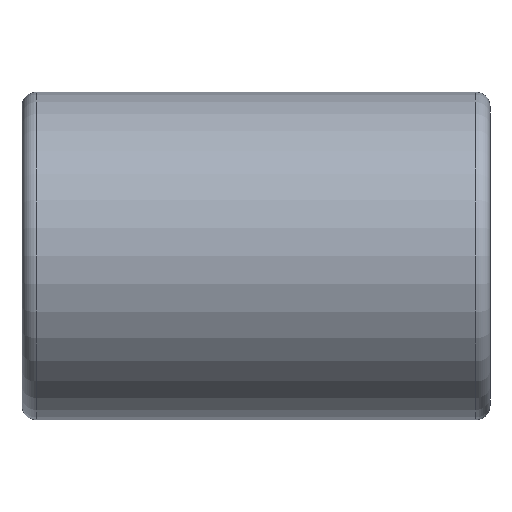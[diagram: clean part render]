
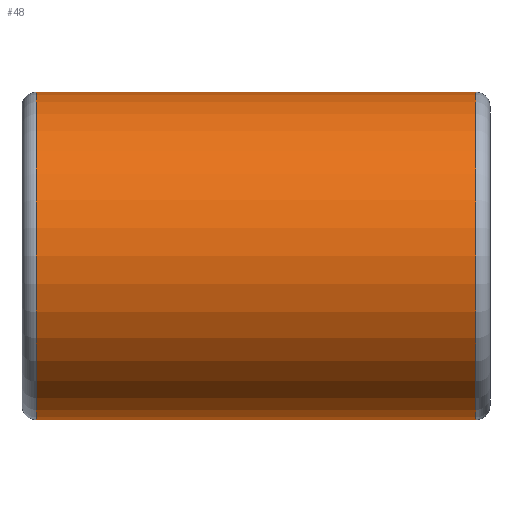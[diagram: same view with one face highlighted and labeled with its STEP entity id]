
A CAD part, front view. The second image highlights one B-rep face of the part: STEP entity #48.
In plain terms, the highlighted cylindrical face has radius 3.5 mm (diameter 7 mm), a full revolution.
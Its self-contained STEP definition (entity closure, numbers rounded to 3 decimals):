
#48 = ADVANCED_FACE( '', ( #99, #100 ), #101, .T. );
#99 = FACE_OUTER_BOUND( '', #146, .T. );
#100 = FACE_OUTER_BOUND( '', #147, .T. );
#101 = CYLINDRICAL_SURFACE( '', #148, 3.5 );
#146 = EDGE_LOOP( '', ( #201 ) );
#147 = EDGE_LOOP( '', ( #202 ) );
#148 = AXIS2_PLACEMENT_3D( '', #203, #204, #205 );
#201 = ORIENTED_EDGE( '', *, *, #234, .F. );
#202 = ORIENTED_EDGE( '', *, *, #230, .T. );
#203 = CARTESIAN_POINT( '', ( 5., 0., 0. ) );
#204 = DIRECTION( '', ( -1., 0., 0. ) );
#205 = DIRECTION( '', ( 0., 1., 0. ) );
#230 = EDGE_CURVE( '', #257, #257, #258, .T. );
#234 = EDGE_CURVE( '', #262, #262, #263, .T. );
#257 = VERTEX_POINT( '', #287 );
#258 = CIRCLE( '', #288, 3.5 );
#262 = VERTEX_POINT( '', #292 );
#263 = CIRCLE( '', #293, 3.5 );
#287 = CARTESIAN_POINT( '', ( 9.7, 3.5, 0. ) );
#288 = AXIS2_PLACEMENT_3D( '', #319, #320, #321 );
#292 = CARTESIAN_POINT( '', ( 0.3, 3.5, 0. ) );
#293 = AXIS2_PLACEMENT_3D( '', #322, #323, #324 );
#319 = CARTESIAN_POINT( '', ( 9.7, 0., 0. ) );
#320 = DIRECTION( '', ( -1., 0., 0. ) );
#321 = DIRECTION( '', ( 0., 1., 0. ) );
#322 = CARTESIAN_POINT( '', ( 0.3, 0., 0. ) );
#323 = DIRECTION( '', ( -1., 0., 0. ) );
#324 = DIRECTION( '', ( 0., 1., 0. ) );
